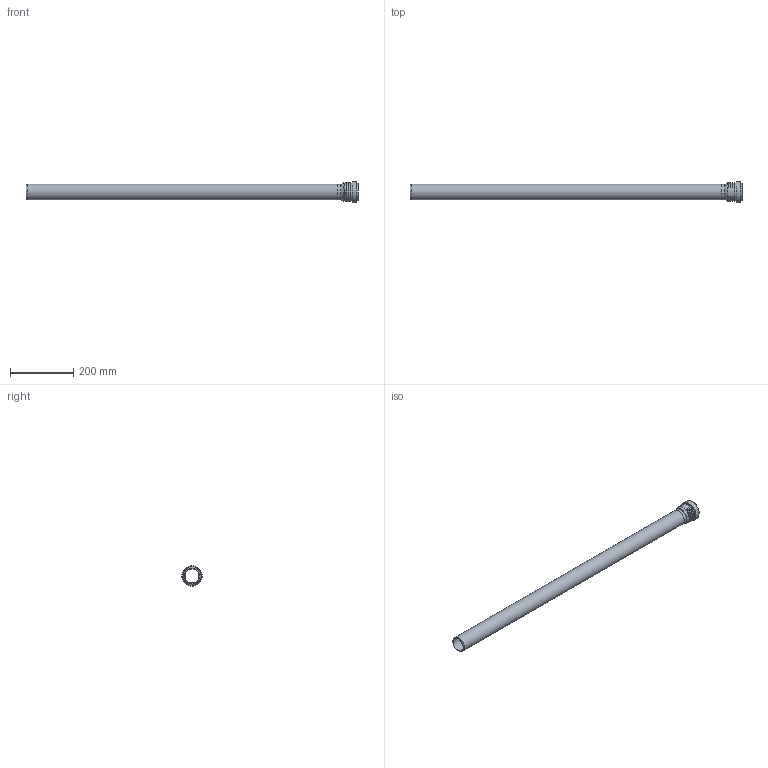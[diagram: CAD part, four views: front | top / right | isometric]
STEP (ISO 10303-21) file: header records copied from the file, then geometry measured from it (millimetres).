
FILE_DESCRIPTION(/* description */ (''),/* implementation_level */ '2;1');
FILE_NAME(/* name */ 'H:\Geberit-Teile\Export\PP_Rohr\stp\393204.stp',/* time_stamp */ '2017-02-13T16:05:17+01:00',/* author */ ('seihe2'),/* organization */ (''),/* preprocessor_version */ 'ST-DEVELOPER v15.2',/* originating_system */ 'Autodesk Inventor 2014',/* authorisation */ '');
FILE_SCHEMA (('AUTOMOTIVE_DESIGN { 1 0 10303 214 3 1 1 }'));
Length unit declared in the file: millimetre
Products named in the file (1): 393204
Bounding box: 1050.8 x 65.1 x 65.1 mm (x, y, z)
Volume: 478262.4 mm3; surface area: 323078.8 mm2
Topology: 2 solids, 2 shells, 38 faces, 82 edges, 57 vertices
Faces by surface type: torus 16, cylinder 10, plane 8, cone 2, bspline 2
Full cylindrical faces by diameter (mm): 44.15 x2, 50.15 x2, 50.8 x1, 52 x1, 56.3 x1, 57.5 x1, 59.9 x1, 65.1 x1
Entity records: 2101 total; most frequent: CARTESIAN_POINT 1309, DIRECTION 132, ORIENTED_EDGE 130, EDGE_LOOP 68, AXIS2_PLACEMENT_3D 66, EDGE_CURVE 65, VERTEX_POINT 57, STYLED_ITEM 40
